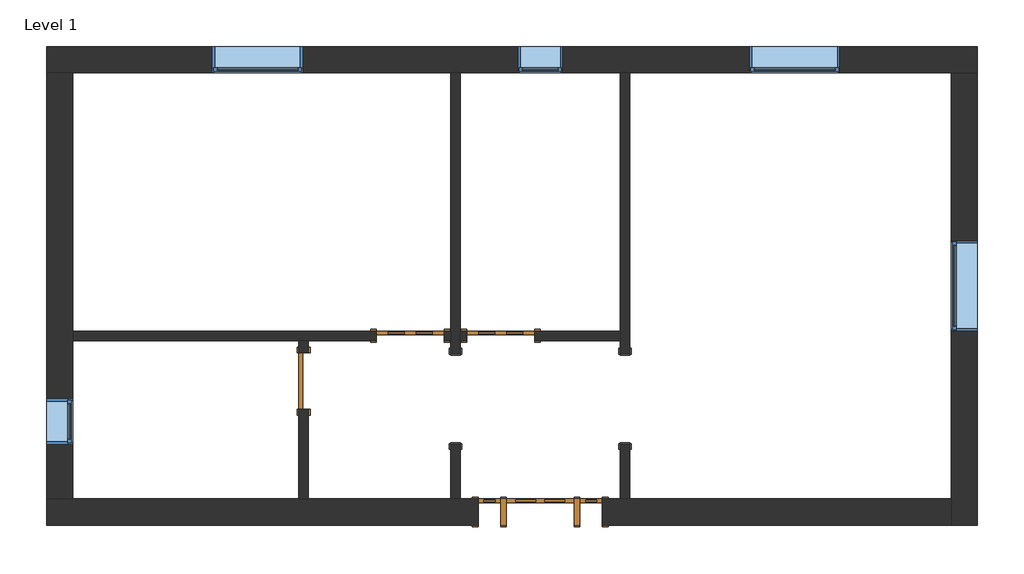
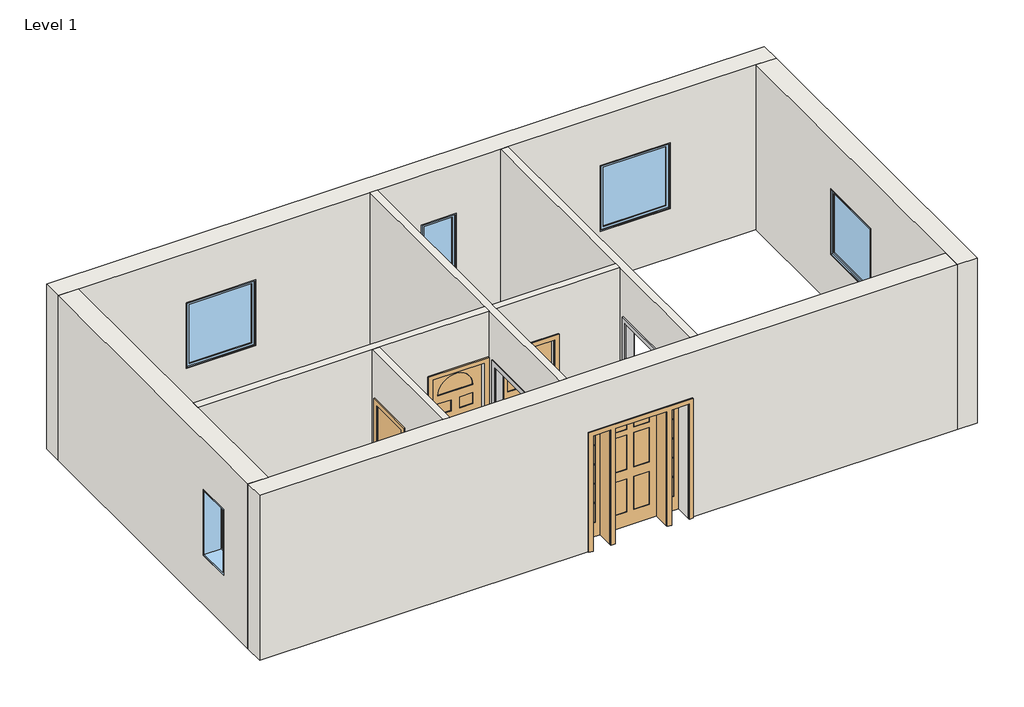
# One storey: 8 walls, 5 windows, 4 doors, 2 proxies.
"""IFC4 building model written with IfcOpenShell, lengths in millimetres."""

from ifc_helpers import new_model, si_unit, frame, origin, place, context, project, spatial, polyline, outline, extrude, faceted_brep, transform, mapped, element, save
from components import proxy_f44482cc, door_829da954, door_2e3b4da2, door_4d6c7550, door_ffdb1193, window_60baf983, window_ed80354a, window_6eb97611

model = new_model("IFC4")

# Units and contexts
model_context = context("Model", 3, world=origin())
ifc_project = project(units=[si_unit("LENGTHUNIT", "METRE", prefix="MILLI")], contexts=[model_context])

# Site, building, storey
site = spatial("IfcSite", under=ifc_project)
building = spatial("IfcBuilding", under=site)
storey = spatial("IfcBuildingStorey", under=building, Name="Level 1", Elevation=0.0)

# Proxies
placement = place(None, origin())
proxy_shape = proxy_f44482cc(model_context)
element("IfcBuildingElementProxy", 1, Name="Opening-Cased : 48' x 84\"", ObjectType="Opening-Cased : 48' x 84\"", at=placement, inside=storey, context=model_context, shape_type="MappedRepresentation", body=[
    mapped(proxy_shape, transform((-3773.4589563, 5882.4203434, 0.0), x_axis=(0.0, 1.0, 0.0), y_axis=(-1.0, 0.0, 0.0), z_axis=(0.0, 0.0, 1.0))),
])
element("IfcBuildingElementProxy", 2, Name="Opening-Cased : 48' x 84\"", ObjectType="Opening-Cased : 48' x 84\"", at=placement, inside=storey, context=model_context, shape_type="MappedRepresentation", body=[
    mapped(proxy_shape, transform((-6059.4589563, 5882.4203434, 0.0), x_axis=(0.0, 1.0, 0.0), y_axis=(-1.0, 0.0, 0.0), z_axis=(0.0, 0.0, 1.0))),
])

# Doors
door_shape = door_829da954(model_context)
element("IfcDoor", 3, ObjectType="Single-Decorative 2 : 36\" x 84\"", at=placement, inside=storey, context=model_context, shape_type="MappedRepresentation", body=[
    mapped(door_shape, transform((-5449.8589563, 6723.5441867, 0.0), x_axis=(-1.0, 0.0, 0.0), y_axis=(0.0, -1.0, 0.0), z_axis=(0.0, 0.0, 1.0))),
])
door_2_shape = door_2e3b4da2(model_context)
element("IfcDoor", 4, ObjectType="Single-Decorative 2 : 36\" x 84\"", at=placement, inside=storey, context=model_context, shape_type="MappedRepresentation", body=[
    mapped(door_2_shape, transform((-6669.0589563, 6723.5441867, 0.0), x_axis=(1.0, 0.0, 0.0), y_axis=(0.0, 1.0, 0.0), z_axis=(0.0, 0.0, 1.0))),
])
door_3_shape = door_4d6c7550(model_context)
element("IfcDoor", 5, ObjectType="Single-Flush : 30\" x 84\"", at=placement, inside=storey, context=model_context, shape_type="MappedRepresentation", body=[
    mapped(door_3_shape, transform((-8105.7464563, 6113.9441867, 0.0), x_axis=(0.0, 1.0, 0.0), y_axis=(-1.0, 0.0, 0.0), z_axis=(0.0, 0.0, 1.0))),
])
door_4_shape = door_ffdb1193(model_context)
element("IfcDoor", 6, ObjectType="Single-Raised Panel with Sidelights : 36\" x 84\"", at=placement, inside=storey, context=model_context, shape_type="MappedRepresentation", body=[
    mapped(door_4_shape, transform((-4916.4589563, 4350.2316867, 0.0), x_axis=(1.0, 0.0, 0.0), y_axis=(0.0, 1.0, 0.0), z_axis=(0.0, 0.0, 1.0))),
])

# Walls
element("IfcWall", 7, ObjectType="Exterior - Brick on Mtl. Stud", at=placement, inside=storey, context=model_context, shape_type="Brep", body=[
    faceted_brep([(974.7535437, 10270.0191867, 0.0), (622.3285437, 10270.0191867, 0.0), (-3709.9589563, 10270.0191867, 0.0), (-3836.9589563, 10270.0191867, 0.0), (-5995.9589563, 10270.0191867, 0.0), (-6122.9589563, 10270.0191867, 0.0), (-11217.2464563, 10270.0191867, 0.0), (-11569.6714563, 10270.0191867, 0.0), (-11569.6714563, 10622.4441867, 0.0), (974.7535437, 10622.4441867, 0.0), (-11569.6714563, 10270.0191867, 3048.0), (-11217.2464563, 10270.0191867, 3048.0), (-6122.9589563, 10270.0191867, 3048.0), (-5995.9589563, 10270.0191867, 3048.0), (-3836.9589563, 10270.0191867, 3048.0), (-3709.9589563, 10270.0191867, 3048.0), (622.3285437, 10270.0191867, 3048.0), (974.7535437, 10270.0191867, 3048.0), (974.7535437, 10622.4441867, 3048.0), (-11569.6714563, 10622.4441867, 3048.0), (-5221.2589563, 10270.0191867, 2133.6), (-4611.6589563, 10270.0191867, 2133.6), (-4611.6589563, 10270.0191867, 914.4), (-5221.2589563, 10270.0191867, 914.4), (-9336.0589563, 10270.0191867, 2133.6), (-8116.8589563, 10270.0191867, 2133.6), (-8116.8589563, 10270.0191867, 914.4), (-9336.0589563, 10270.0191867, 914.4), (-2097.0589563, 10270.0191867, 2133.6), (-877.8589563, 10270.0191867, 2133.6), (-877.8589563, 10270.0191867, 914.4), (-2097.0589563, 10270.0191867, 914.4), (-5221.2589563, 10622.4441867, 2133.6), (-5221.2589563, 10622.4441867, 914.4), (-4611.6589563, 10622.4441867, 914.4), (-4611.6589563, 10622.4441867, 2133.6), (-9336.0589563, 10622.4441867, 2133.6), (-9336.0589563, 10622.4441867, 914.4), (-8116.8589563, 10622.4441867, 914.4), (-8116.8589563, 10622.4441867, 2133.6), (-2097.0589563, 10622.4441867, 2133.6), (-2097.0589563, 10622.4441867, 914.4), (-877.8589563, 10622.4441867, 914.4), (-877.8589563, 10622.4441867, 2133.6)], [[[0, 1, 2, 3, 4, 5, 6, 7, 8, 9]], [[10, 11, 12, 13, 14, 15, 16, 17, 18, 19]], [[7, 6, 5, 4, 3, 2, 1, 0, 17, 16, 15, 14, 13, 12, 11, 10], [20, 21, 22, 23], [24, 25, 26, 27], [28, 29, 30, 31]], [[8, 19, 18, 9], [32, 33, 34, 35], [36, 37, 38, 39], [40, 41, 42, 43]], [[17, 0, 9, 18]], [[7, 10, 19, 8]], [[33, 32, 20, 23]], [[34, 33, 23, 22]], [[35, 34, 22, 21]], [[32, 35, 21, 20]], [[37, 36, 24, 27]], [[38, 37, 27, 26]], [[39, 38, 26, 25]], [[36, 39, 25, 24]], [[41, 40, 28, 31]], [[42, 41, 31, 30]], [[43, 42, 30, 29]], [[40, 43, 29, 28]]]),
])
element("IfcWall", 8, ObjectType="Exterior - Brick on Mtl. Stud", at=placement, inside=storey, context=model_context, shape_type="Brep", body=[
    faceted_brep([(622.3285437, 4174.0191867, 0.0), (622.3285437, 4526.4441867, 0.0), (622.3285437, 10270.0191867, 0.0), (974.7535437, 10270.0191867, 0.0), (974.7535437, 4174.0191867, 0.0), (622.3285437, 10270.0191867, 3048.0), (622.3285437, 4526.4441867, 3048.0), (622.3285437, 4174.0191867, 3048.0), (974.7535437, 4174.0191867, 3048.0), (974.7535437, 10270.0191867, 3048.0), (622.3285437, 8007.8316867, 2133.6), (622.3285437, 6788.6316867, 2133.6), (622.3285437, 6788.6316867, 914.4), (622.3285437, 8007.8316867, 914.4), (974.7535437, 8007.8316867, 2133.6), (974.7535437, 8007.8316867, 914.4), (974.7535437, 6788.6316867, 914.4), (974.7535437, 6788.6316867, 2133.6)], [[[0, 1, 2, 3, 4]], [[5, 6, 7, 8, 9]], [[2, 1, 0, 7, 6, 5], [10, 11, 12, 13]], [[3, 9, 8, 4], [14, 15, 16, 17]], [[2, 5, 9, 3]], [[7, 0, 4, 8]], [[15, 14, 10, 13]], [[16, 15, 13, 12]], [[17, 16, 12, 11]], [[14, 17, 11, 10]]]),
])
element("IfcWall", 9, ObjectType="Exterior - Brick on Mtl. Stud", at=placement, inside=storey, context=model_context, shape_type="Brep", body=[
    faceted_brep([(622.3285437, 4174.0191867, 0.0), (-4078.2589563, 4174.0191867, 0.0), (-4078.2589563, 4526.4441867, 0.0), (-3836.9589563, 4526.4441867, 0.0), (-3709.9589563, 4526.4441867, 0.0), (622.3285437, 4526.4441867, 0.0), (-5754.6589563, 4174.0191867, 0.0), (-11569.6714563, 4174.0191867, 0.0), (-11569.6714563, 4526.4441867, 0.0), (-11217.2464563, 4526.4441867, 0.0), (-8169.2464563, 4526.4441867, 0.0), (-8042.2464563, 4526.4441867, 0.0), (-6122.9589563, 4526.4441867, 0.0), (-5995.9589563, 4526.4441867, 0.0), (-5754.6589563, 4526.4441867, 0.0), (622.3285437, 4526.4441867, 3048.0), (-3709.9589563, 4526.4441867, 3048.0), (-3836.9589563, 4526.4441867, 3048.0), (-5995.9589563, 4526.4441867, 3048.0), (-6122.9589563, 4526.4441867, 3048.0), (-8042.2464563, 4526.4441867, 3048.0), (-8169.2464563, 4526.4441867, 3048.0), (-11217.2464563, 4526.4441867, 3048.0), (-11569.6714563, 4526.4441867, 3048.0), (-11569.6714563, 4174.0191867, 3048.0), (622.3285437, 4174.0191867, 3048.0), (-4078.2589563, 4526.4441867, 2133.6), (-5754.6589563, 4526.4441867, 2133.6), (-4078.2589563, 4174.0191867, 2133.6), (-5754.6589563, 4174.0191867, 2133.6)], [[[0, 1, 2, 3, 4, 5]], [[6, 7, 8, 9, 10, 11, 12, 13, 14]], [[15, 16, 17, 18, 19, 20, 21, 22, 23, 24, 25]], [[5, 4, 3, 2, 26, 27, 14, 13, 12, 11, 10, 9, 8, 23, 22, 21, 20, 19, 18, 17, 16, 15]], [[28, 1, 0, 25, 24, 7, 6, 29]], [[5, 15, 25, 0]], [[23, 8, 7, 24]], [[26, 2, 1, 28]], [[27, 26, 28, 29]], [[14, 27, 29, 6]]]),
])
element("IfcWall", 10, ObjectType="Exterior - Brick on Mtl. Stud", at=placement, inside=storey, context=model_context, shape_type="Brep", body=[
    faceted_brep([(-11217.2464563, 10270.0191867, 0.0), (-11217.2464563, 6787.0441867, 0.0), (-11217.2464563, 6660.0441867, 0.0), (-11217.2464563, 4526.4441867, 0.0), (-11569.6714563, 4526.4441867, 0.0), (-11569.6714563, 10270.0191867, 0.0), (-11217.2464563, 4526.4441867, 3048.0), (-11217.2464563, 6660.0441867, 3048.0), (-11217.2464563, 6787.0441867, 3048.0), (-11217.2464563, 10270.0191867, 3048.0), (-11569.6714563, 10270.0191867, 3048.0), (-11569.6714563, 4526.4441867, 3048.0), (-11217.2464563, 5874.2316867, 2133.6), (-11217.2464563, 5874.2316867, 914.4), (-11217.2464563, 5264.6316867, 914.4), (-11217.2464563, 5264.6316867, 2133.6), (-11569.6714563, 5874.2316867, 2133.6), (-11569.6714563, 5264.6316867, 2133.6), (-11569.6714563, 5264.6316867, 914.4), (-11569.6714563, 5874.2316867, 914.4)], [[[0, 1, 2, 3, 4, 5]], [[6, 7, 8, 9, 10, 11]], [[3, 2, 1, 0, 9, 8, 7, 6], [12, 13, 14, 15]], [[4, 11, 10, 5], [16, 17, 18, 19]], [[3, 6, 11, 4]], [[9, 0, 5, 10]], [[13, 12, 16, 19]], [[14, 13, 19, 18]], [[15, 14, 18, 17]], [[12, 15, 17, 16]]]),
])
element("IfcWall", 11, ObjectType="Interior - 5\" Partition (2-hr)", at=placement, inside=storey, context=model_context, shape_type="Brep", body=[
    faceted_brep([(-3709.9589563, 10270.0191867, 0.0), (-3709.9589563, 6483.8316867, 0.0), (-3836.9589563, 6483.8316867, 0.0), (-3836.9589563, 6660.0441867, 0.0), (-3836.9589563, 6787.0441867, 0.0), (-3836.9589563, 10270.0191867, 0.0), (-3709.9589563, 5264.6316867, 0.0), (-3709.9589563, 4526.4441867, 0.0), (-3836.9589563, 4526.4441867, 0.0), (-3836.9589563, 5264.6316867, 0.0), (-3836.9589563, 10270.0191867, 3048.0), (-3836.9589563, 6787.0441867, 3048.0), (-3836.9589563, 6660.0441867, 3048.0), (-3836.9589563, 4526.4441867, 3048.0), (-3709.9589563, 4526.4441867, 3048.0), (-3709.9589563, 10270.0191867, 3048.0), (-3836.9589563, 6483.8316867, 2133.6), (-3836.9589563, 5264.6316867, 2133.6), (-3709.9589563, 6483.8316867, 2133.6), (-3709.9589563, 5264.6316867, 2133.6)], [[[0, 1, 2, 3, 4, 5]], [[6, 7, 8, 9]], [[10, 11, 12, 13, 14, 15]], [[5, 4, 3, 2, 16, 17, 9, 8, 13, 12, 11, 10]], [[18, 1, 0, 15, 14, 7, 6, 19]], [[5, 10, 15, 0]], [[13, 8, 7, 14]], [[9, 17, 19, 6]], [[16, 2, 1, 18]], [[17, 16, 18, 19]]]),
])
element("IfcWall", 12, ObjectType="Interior - 5\" Partition (2-hr)", at=placement, inside=storey, context=model_context, shape_type="Brep", body=[
    faceted_brep([(-5995.9589563, 10270.0191867, 0.0), (-5995.9589563, 6787.0441867, 0.0), (-5995.9589563, 6660.0441867, 0.0), (-5995.9589563, 6483.8316867, 0.0), (-6122.9589563, 6483.8316867, 0.0), (-6122.9589563, 6660.0441867, 0.0), (-6122.9589563, 6787.0441867, 0.0), (-6122.9589563, 10270.0191867, 0.0), (-5995.9589563, 5264.6316867, 0.0), (-5995.9589563, 4526.4441867, 0.0), (-6122.9589563, 4526.4441867, 0.0), (-6122.9589563, 5264.6316867, 0.0), (-6122.9589563, 10270.0191867, 3048.0), (-6122.9589563, 6787.0441867, 3048.0), (-6122.9589563, 6660.0441867, 3048.0), (-6122.9589563, 4526.4441867, 3048.0), (-5995.9589563, 4526.4441867, 3048.0), (-5995.9589563, 6660.0441867, 3048.0), (-5995.9589563, 6787.0441867, 3048.0), (-5995.9589563, 10270.0191867, 3048.0), (-6122.9589563, 6483.8316867, 2133.6), (-6122.9589563, 5264.6316867, 2133.6), (-5995.9589563, 6483.8316867, 2133.6), (-5995.9589563, 5264.6316867, 2133.6)], [[[0, 1, 2, 3, 4, 5, 6, 7]], [[8, 9, 10, 11]], [[12, 13, 14, 15, 16, 17, 18, 19]], [[7, 6, 5, 4, 20, 21, 11, 10, 15, 14, 13, 12]], [[22, 3, 2, 1, 0, 19, 18, 17, 16, 9, 8, 23]], [[7, 12, 19, 0]], [[15, 10, 9, 16]], [[11, 21, 23, 8]], [[20, 4, 3, 22]], [[21, 20, 22, 23]]]),
])
element("IfcWall", 13, ObjectType="Interior - 5\" Partition (2-hr)", at=placement, inside=storey, context=model_context, shape_type="Brep", body=[
    faceted_brep([(-11217.2464563, 6660.0441867, 0.0), (-11217.2464563, 6787.0441867, 0.0), (-7126.2589563, 6787.0441867, 0.0), (-7126.2589563, 6660.0441867, 0.0), (-8042.2464563, 6660.0441867, 0.0), (-8169.2464563, 6660.0441867, 0.0), (-6211.8589563, 6660.0441867, 0.0), (-6211.8589563, 6787.0441867, 0.0), (-6122.9589563, 6787.0441867, 0.0), (-6122.9589563, 6660.0441867, 0.0), (-11217.2464563, 6787.0441867, 3048.0), (-11217.2464563, 6660.0441867, 3048.0), (-8169.2464563, 6660.0441867, 3048.0), (-8042.2464563, 6660.0441867, 3048.0), (-6122.9589563, 6660.0441867, 3048.0), (-6122.9589563, 6787.0441867, 3048.0), (-7126.2589563, 6660.0441867, 2133.6), (-6211.8589563, 6660.0441867, 2133.6), (-6211.8589563, 6787.0441867, 2133.6), (-7126.2589563, 6787.0441867, 2133.6)], [[[0, 1, 2, 3, 4, 5]], [[6, 7, 8, 9]], [[10, 11, 12, 13, 14, 15]], [[11, 0, 5, 4, 3, 16, 17, 6, 9, 14, 13, 12]], [[1, 10, 15, 8, 7, 18, 19, 2]], [[0, 11, 10, 1]], [[18, 7, 6, 17]], [[19, 18, 17, 16]], [[2, 19, 16, 3]], [[9, 8, 15, 14]]]),
    faceted_brep([(-3836.9589563, 6787.0441867, 0.0), (-3836.9589563, 6660.0441867, 0.0), (-4992.6589563, 6660.0441867, 0.0), (-4992.6589563, 6787.0441867, 0.0), (-5907.0589563, 6787.0441867, 0.0), (-5907.0589563, 6660.0441867, 0.0), (-5995.9589563, 6660.0441867, 0.0), (-5995.9589563, 6787.0441867, 0.0), (-3836.9589563, 6660.0441867, 3048.0), (-3836.9589563, 6787.0441867, 3048.0), (-5995.9589563, 6787.0441867, 3048.0), (-5995.9589563, 6660.0441867, 3048.0), (-5907.0589563, 6660.0441867, 2133.6), (-4992.6589563, 6660.0441867, 2133.6), (-4992.6589563, 6787.0441867, 2133.6), (-5907.0589563, 6787.0441867, 2133.6)], [[[0, 1, 2, 3]], [[4, 5, 6, 7]], [[8, 9, 10, 11]], [[1, 8, 11, 6, 5, 12, 13, 2]], [[9, 0, 3, 14, 15, 4, 7, 10]], [[8, 1, 0, 9]], [[12, 5, 4, 15]], [[13, 12, 15, 14]], [[2, 13, 14, 3]], [[7, 6, 11, 10]]]),
])
element("IfcWall", 14, ObjectType="Interior - 5\" Partition (2-hr)", at=placement, inside=storey, context=model_context, shape_type="SweptSolid", body=[
    extrude(outline(polyline([(6660.0441867, 0.0), (6494.9441867, 0.0), (6494.9441867, 2133.6), (5732.9441867, 2133.6), (5732.9441867, 0.0), (4526.4441867, 0.0), (4526.4441867, 3048.0), (6660.0441867, 3048.0), (6660.0441867, 0.0)])), frame((-8169.2464563, 0.0, 0.0), z_axis=(1.0, 0.0, 0.0), x_axis=(0.0, 1.0, 0.0)), (0.0, 0.0, 1.0), 127.0),
])

# Windows
window_shape = window_60baf983(model_context)
element("IfcWindow", 15, ObjectType="Fixed : 24\" x 48\"", at=placement, inside=storey, context=model_context, shape_type="MappedRepresentation", body=[
    mapped(window_shape, transform((-4954.5589563, 10446.2316867, 0.0), x_axis=(-1.0, 0.0, 0.0), y_axis=(0.0, -1.0, 0.0), z_axis=(0.0, 0.0, 1.0))),
])
window_2_shape = window_ed80354a(model_context)
element("IfcWindow", 16, ObjectType="Fixed : 24\" x 48\"", at=placement, inside=storey, context=model_context, shape_type="MappedRepresentation", body=[
    mapped(window_2_shape, transform((-11393.4589563, 5607.5316867, 0.0), x_axis=(0.0, 1.0, 0.0), y_axis=(-1.0, 0.0, 0.0), z_axis=(0.0, 0.0, 1.0))),
])
window_3_shape = window_6eb97611(model_context)
element("IfcWindow", 17, ObjectType="Fixed : 48\" x 48\"", at=placement, inside=storey, context=model_context, shape_type="MappedRepresentation", body=[
    mapped(window_3_shape, transform((-8764.5589563, 10446.2316867, 0.0), x_axis=(-1.0, 0.0, 0.0), y_axis=(0.0, -1.0, 0.0), z_axis=(0.0, 0.0, 1.0))),
])
element("IfcWindow", 18, ObjectType="Fixed : 48\" x 48\"", at=placement, inside=storey, context=model_context, shape_type="MappedRepresentation", body=[
    mapped(window_3_shape, transform((-1525.5589563, 10446.2316867, 0.0), x_axis=(-1.0, 0.0, 0.0), y_axis=(0.0, -1.0, 0.0), z_axis=(0.0, 0.0, 1.0))),
])
element("IfcWindow", 19, ObjectType="Fixed : 48\" x 48\"", at=placement, inside=storey, context=model_context, shape_type="MappedRepresentation", body=[
    mapped(window_3_shape, transform((798.5410437, 7436.3316867, 0.0), x_axis=(0.0, 1.0, 0.0), y_axis=(-1.0, 0.0, 0.0), z_axis=(0.0, 0.0, 1.0))),
])

save(model, "model.ifc")
